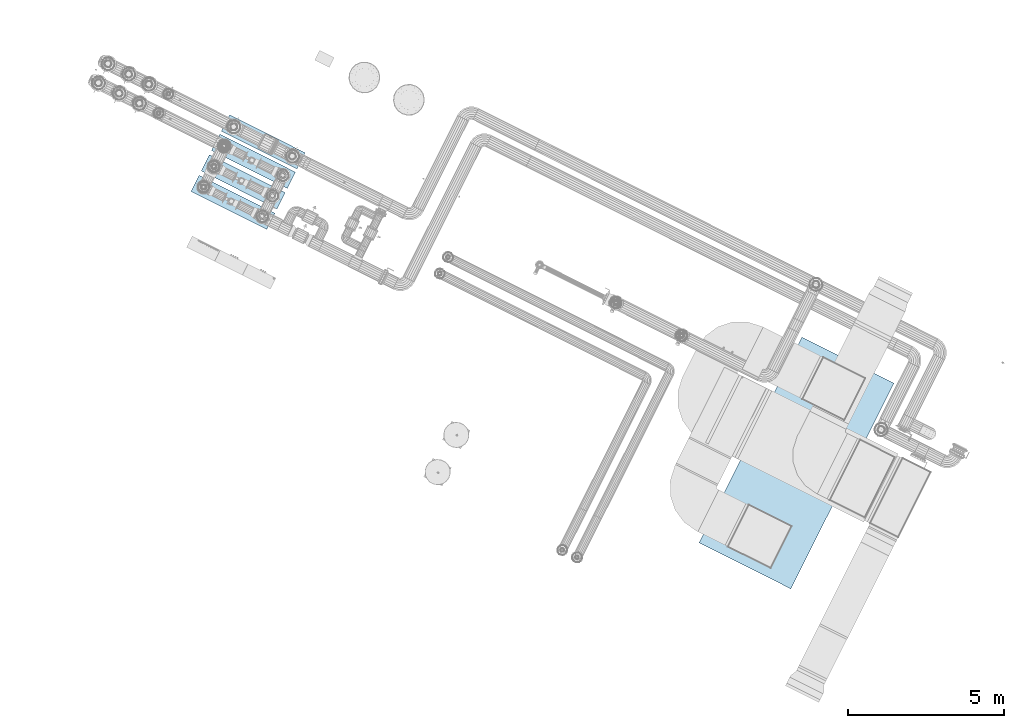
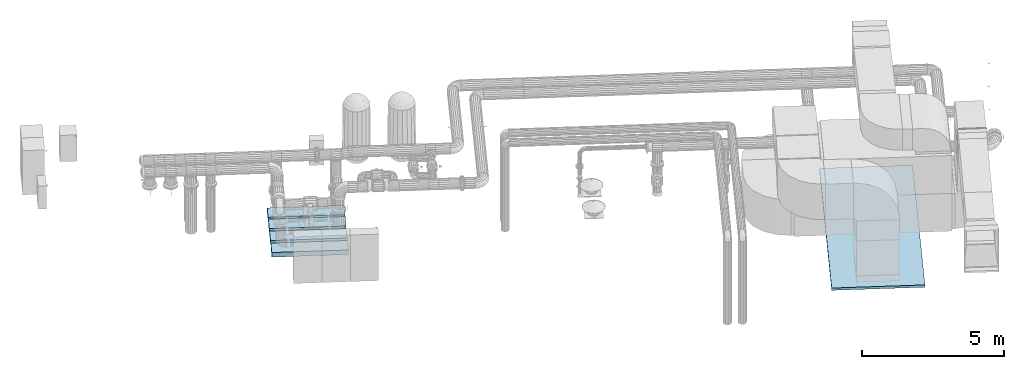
# One storey, part 1 of 152: 5 slabs.
"""IFC2X3 building model written with IfcOpenShell, lengths in metres."""

from ifc_helpers import new_model, si_unit, derived_unit, direction, frame, frame_2d, origin, place, context, subcontext, project, spatial, rectangle, extrude, material, type_object, element, save


model = new_model("IFC2X3")

# Units and contexts
model_context = context("Model", 3, precision=5.2338327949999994e-05, world=origin(), true_north=direction((0.0, 1.0)))
body_context = subcontext(model_context, "Body", "Model", "MODEL_VIEW")
ifc_project = project(units=[si_unit("LENGTHUNIT", "METRE"), si_unit("AREAUNIT", "SQUARE_METRE"), si_unit("VOLUMEUNIT", "CUBIC_METRE"), si_unit("MASSUNIT", "GRAM", prefix="KILO"), si_unit("PLANEANGLEUNIT", "RADIAN"), derived_unit("THERMALTRANSMITTANCEUNIT", [(si_unit("MASSUNIT", "GRAM", prefix="KILO"), 1), (si_unit("THERMODYNAMICTEMPERATUREUNIT", "KELVIN"), -1), (si_unit("TIMEUNIT", "SECOND"), -3)])], contexts=[model_context])

# Site, building, storey
site_placement = place(None, frame((0.0, 0.0, 0.0), z_axis=(0.0, 0.0, 1.0), x_axis=(0.8939966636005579, -0.4480736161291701, 0.0)))
site = spatial("IfcSite", under=ifc_project, at=site_placement, Name="Default", CompositionType="ELEMENT")
building_placement = place(site_placement, origin())
building = spatial("IfcBuilding", under=site, at=building_placement, CompositionType="ELEMENT")
storey_placement = place(building_placement, frame((0.0, 0.0, 2.7499999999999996)))
storey = spatial("IfcBuildingStorey", under=building, at=storey_placement, Name="1. Obergeschoss", CompositionType="ELEMENT", Elevation=2.7499999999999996)

# Slabs
ifc_material_1 = material(Name="IfcSurfaceStyle #105")
slab_type_1 = type_object("IfcSlabType", Name="Geschossdecke:Geschossdecke", PredefinedType="FLOOR", material=ifc_material_1)
slab_1_placement = place(storey_placement, origin())
element("IfcSlab", 1, at=slab_1_placement, inside=storey, type_object=slab_type_1, Name="Geschossdecke", context=body_context, shape_type="SweptSolid", body=[
    extrude(rectangle(XDim=2.7117216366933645, YDim=0.5828270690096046, at=frame_2d((5.551115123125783e-16, 5.551115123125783e-16), x_axis=(1.0, 0.0))), frame((10.680024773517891, 7.310323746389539, 0.20000000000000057)), (0.0, 0.0, 1.0), 0.2),
])
slab_type_2 = type_object("IfcSlabType", Name="Geschossdecke 112:Geschossdecke 112", PredefinedType="FLOOR", material=ifc_material_1)
slab_2_placement = place(storey_placement, origin())
element("IfcSlab", 2, at=slab_2_placement, inside=storey, type_object=slab_type_2, Name="Geschossdecke", context=body_context, shape_type="SweptSolid", body=[
    extrude(rectangle(XDim=2.7117216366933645, YDim=0.5828270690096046, at=frame_2d((5.551115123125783e-16, 5.551115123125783e-16), x_axis=(1.0, 0.0))), frame((10.680024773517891, 6.574863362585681, 0.20000000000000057)), (0.0, 0.0, 1.0), 0.2),
])
slab_type_3 = type_object("IfcSlabType", Name="Geschossdecke 135:Geschossdecke 135", PredefinedType="FLOOR", material=ifc_material_1)
slab_3_placement = place(storey_placement, origin())
element("IfcSlab", 3, at=slab_3_placement, inside=storey, type_object=slab_type_3, Name="Geschossdecke", context=body_context, shape_type="SweptSolid", body=[
    extrude(rectangle(XDim=2.7117216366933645, YDim=0.5828270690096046, at=frame_2d((5.551115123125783e-16, -5.551115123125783e-16), x_axis=(1.0, 0.0))), frame((10.680024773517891, 5.839402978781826, 0.20000000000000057)), (0.0, 0.0, 1.0), 0.2),
])
slab_type_4 = type_object("IfcSlabType", Name="Geschossdecke 158:Geschossdecke 158", PredefinedType="FLOOR", material=ifc_material_1)
slab_4_placement = place(storey_placement, origin())
element("IfcSlab", 4, at=slab_4_placement, inside=storey, type_object=slab_type_4, Name="Geschossdecke", context=body_context, shape_type="SweptSolid", body=[
    extrude(rectangle(XDim=2.711721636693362, YDim=0.5828270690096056, at=frame_2d((-5.551115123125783e-16, 1.0824674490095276e-15), x_axis=(1.0, 0.0))), frame((10.680024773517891, 8.004523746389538, 0.20000000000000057)), (0.0, 0.0, 1.0), 0.2),
])
ifc_material_2 = material(Name="IfcSurfaceStyle #953")
slab_type_5 = type_object("IfcSlabType", Name="Geschossdecke 929:Geschossdecke 929", PredefinedType="FLOOR", material=ifc_material_2)
slab_5_placement = place(storey_placement, origin())
element("IfcSlab", 5, at=slab_5_placement, inside=storey, type_object=slab_type_5, Name="Geschossdecke", context=body_context, shape_type="SweptSolid", body=[
    extrude(rectangle(XDim=3.2903948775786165, YDim=7.361339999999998, at=frame_2d((2.220446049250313e-15, -1.1102230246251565e-15), x_axis=(1.0, 0.0))), frame((30.54519743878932, 6.462538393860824, -0.1), z_axis=(0.0, 0.0, 1.0), x_axis=(-1.0, 0.0, 0.0)), (0.0, 0.0, 1.0), 0.1),
])

save(model, "model.ifc")
